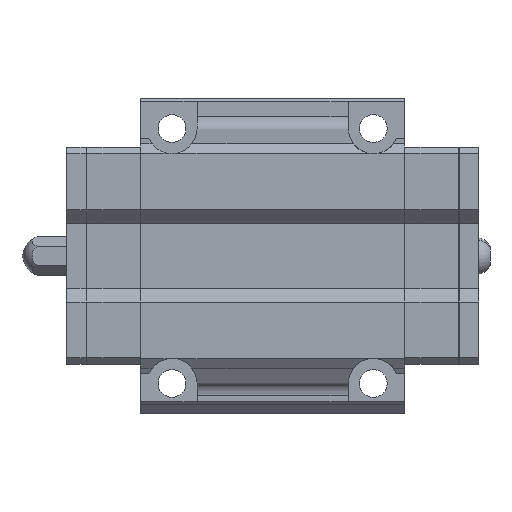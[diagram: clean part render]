
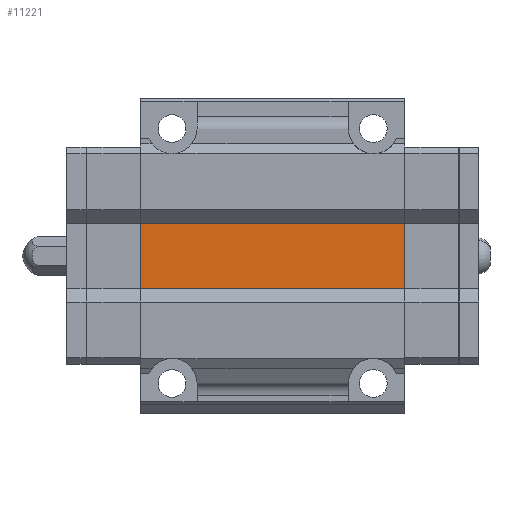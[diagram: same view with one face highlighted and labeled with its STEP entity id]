
A CAD part, front view. The second image highlights one B-rep face of the part: STEP entity #11221.
In plain terms, the highlighted planar face has unit normal (0, -1, 0).
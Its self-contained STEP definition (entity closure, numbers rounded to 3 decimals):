
#483 = CARTESIAN_POINT ( 'NONE',  ( -19.7, 0., 5.049 ) ) ;
#707 = DIRECTION ( 'NONE',  ( 0., 0., 1. ) ) ;
#1016 = CARTESIAN_POINT ( 'NONE',  ( -30.7, 0., -5.049 ) ) ;
#1121 = ORIENTED_EDGE ( 'NONE', *, *, #11165, .F. ) ;
#1150 = EDGE_CURVE ( 'NONE', #12243, #6482, #3355, .T. ) ;
#1469 = CARTESIAN_POINT ( 'NONE',  ( 19.7, 0., 2.524 ) ) ;
#1636 = DIRECTION ( 'NONE',  ( 0., -1., 0. ) ) ;
#2258 = VECTOR ( 'NONE', #5331, 1000. ) ;
#2455 = DIRECTION ( 'NONE',  ( 1., 0., 0. ) ) ;
#2616 = CARTESIAN_POINT ( 'NONE',  ( 19.7, 0., -5.049 ) ) ;
#3351 = ORIENTED_EDGE ( 'NONE', *, *, #1150, .F. ) ;
#3355 = LINE ( 'NONE', #1469, #2258 ) ;
#3543 = EDGE_LOOP ( 'NONE', ( #3351, #1121, #6473, #8519 ) ) ;
#3601 = LINE ( 'NONE', #9254, #9655 ) ;
#3678 = CARTESIAN_POINT ( 'NONE',  ( -19.7, 0., 2.524 ) ) ;
#4002 = EDGE_CURVE ( 'NONE', #6748, #12029, #9267, .T. ) ;
#4837 = VECTOR ( 'NONE', #707, 1000. ) ;
#4867 = DIRECTION ( 'NONE',  ( 1., 0., 0. ) ) ;
#4944 = CARTESIAN_POINT ( 'NONE',  ( 19.7, 0., 5.049 ) ) ;
#5331 = DIRECTION ( 'NONE',  ( 0., 0., -1. ) ) ;
#6429 = LINE ( 'NONE', #1016, #11253 ) ;
#6473 = ORIENTED_EDGE ( 'NONE', *, *, #4002, .F. ) ;
#6482 = VERTEX_POINT ( 'NONE', #2616 ) ;
#6748 = VERTEX_POINT ( 'NONE', #7312 ) ;
#7229 = AXIS2_PLACEMENT_3D ( 'NONE', #9316, #1636, #9381 ) ;
#7312 = CARTESIAN_POINT ( 'NONE',  ( -19.7, 0., -5.049 ) ) ;
#8519 = ORIENTED_EDGE ( 'NONE', *, *, #10953, .T. ) ;
#9254 = CARTESIAN_POINT ( 'NONE',  ( -30.7, 0., 5.049 ) ) ;
#9267 = LINE ( 'NONE', #3678, #4837 ) ;
#9316 = CARTESIAN_POINT ( 'NONE',  ( -19.7, 0., 5.049 ) ) ;
#9381 = DIRECTION ( 'NONE',  ( 0., 0., -1. ) ) ;
#9655 = VECTOR ( 'NONE', #2455, 1000. ) ;
#10953 = EDGE_CURVE ( 'NONE', #6748, #6482, #6429, .T. ) ;
#11078 = PLANE ( 'NONE',  #7229 ) ;
#11165 = EDGE_CURVE ( 'NONE', #12029, #12243, #3601, .T. ) ;
#11221 = ADVANCED_FACE ( 'NONE', ( #12019 ), #11078, .T. ) ;
#11253 = VECTOR ( 'NONE', #4867, 1000. ) ;
#12019 = FACE_OUTER_BOUND ( 'NONE', #3543, .T. ) ;
#12029 = VERTEX_POINT ( 'NONE', #483 ) ;
#12243 = VERTEX_POINT ( 'NONE', #4944 ) ;
